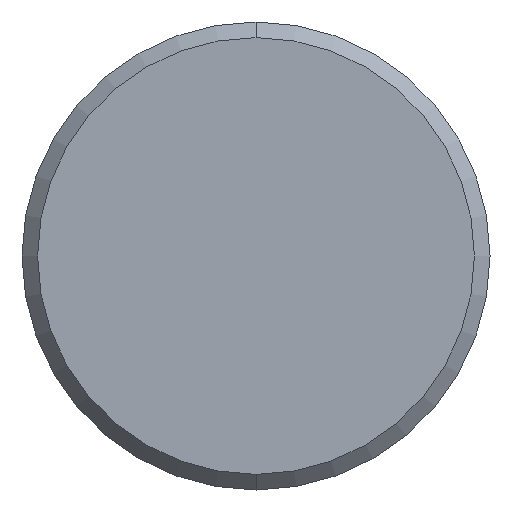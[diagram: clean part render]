
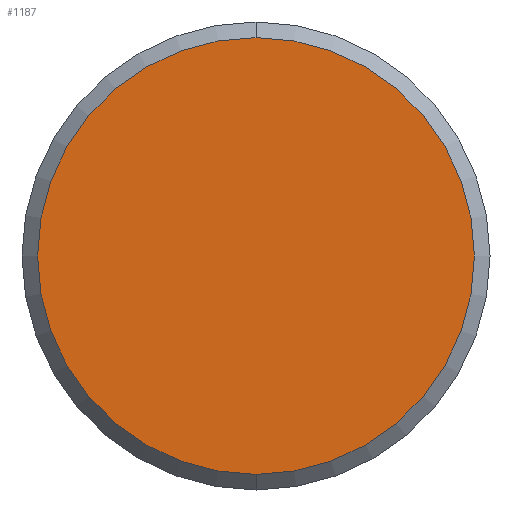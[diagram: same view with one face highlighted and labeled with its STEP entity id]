
A CAD part, front view. The second image highlights one B-rep face of the part: STEP entity #1187.
In plain terms, the highlighted planar face has unit normal (0, -1, 0).
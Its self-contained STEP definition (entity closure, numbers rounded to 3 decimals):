
#51 = ORIENTED_EDGE ( 'NONE', *, *, #789, .F. ) ;
#126 = ORIENTED_EDGE ( 'NONE', *, *, #1272, .F. ) ;
#182 = DIRECTION ( 'NONE',  ( 0., 0., 1. ) ) ;
#227 = CARTESIAN_POINT ( 'NONE',  ( 0., 0., 0. ) ) ;
#297 = AXIS2_PLACEMENT_3D ( 'NONE', #1426, #738, #182 ) ;
#376 = AXIS2_PLACEMENT_3D ( 'NONE', #227, #1123, #1239 ) ;
#419 = CIRCLE ( 'NONE', #297, 14. ) ;
#485 = PLANE ( 'NONE',  #1395 ) ;
#506 = VERTEX_POINT ( 'NONE', #1288 ) ;
#600 = CARTESIAN_POINT ( 'NONE',  ( 0., 0., 0. ) ) ;
#703 = CARTESIAN_POINT ( 'NONE',  ( 0., 0., -14. ) ) ;
#715 = DIRECTION ( 'NONE',  ( 0., 0., 1. ) ) ;
#738 = DIRECTION ( 'NONE',  ( 0., 1., 0. ) ) ;
#789 = EDGE_CURVE ( 'NONE', #506, #1069, #1141, .T. ) ;
#822 = DIRECTION ( 'NONE',  ( 0., 1., 0. ) ) ;
#953 = EDGE_LOOP ( 'NONE', ( #126, #51 ) ) ;
#1069 = VERTEX_POINT ( 'NONE', #703 ) ;
#1123 = DIRECTION ( 'NONE',  ( 0., 1., 0. ) ) ;
#1141 = CIRCLE ( 'NONE', #376, 14. ) ;
#1187 = ADVANCED_FACE ( 'NONE', ( #1361 ), #485, .F. ) ;
#1239 = DIRECTION ( 'NONE',  ( 0., 0., 1. ) ) ;
#1272 = EDGE_CURVE ( 'NONE', #1069, #506, #419, .T. ) ;
#1288 = CARTESIAN_POINT ( 'NONE',  ( 0., 0., 14. ) ) ;
#1361 = FACE_OUTER_BOUND ( 'NONE', #953, .T. ) ;
#1395 = AXIS2_PLACEMENT_3D ( 'NONE', #600, #822, #715 ) ;
#1426 = CARTESIAN_POINT ( 'NONE',  ( 0., 0., 0. ) ) ;
